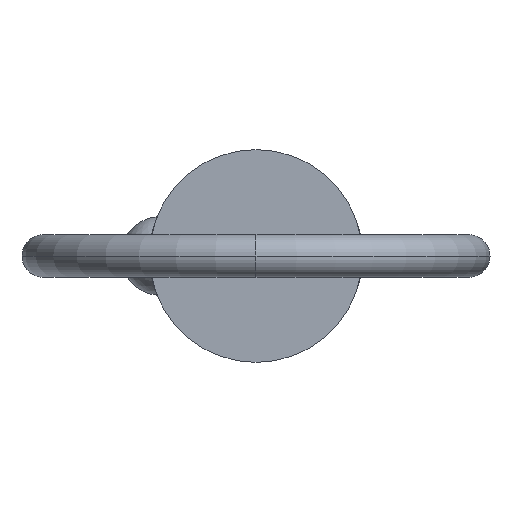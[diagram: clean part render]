
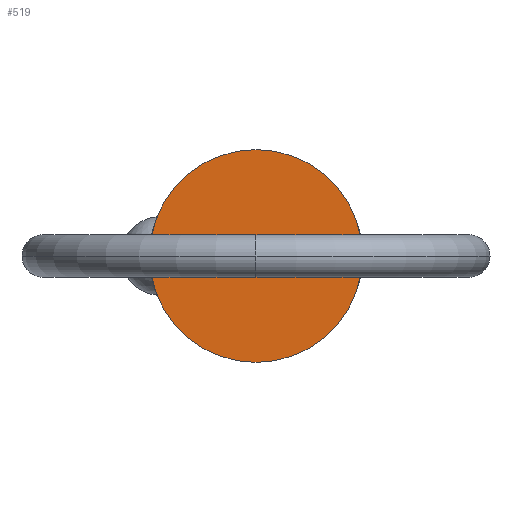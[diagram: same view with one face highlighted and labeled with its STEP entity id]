
A CAD part, left-side view. The second image highlights one B-rep face of the part: STEP entity #519.
In plain terms, the highlighted planar face has unit normal (-1, 0, 0).
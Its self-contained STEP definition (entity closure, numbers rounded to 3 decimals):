
#1 = CARTESIAN_POINT ( 'NONE',  ( 0., 0., 0. ) ) ;
#58 = EDGE_CURVE ( 'NONE', #241, #141, #305, .T. ) ;
#123 = AXIS2_PLACEMENT_3D ( 'NONE', #1, #153, #230 ) ;
#140 = PLANE ( 'NONE',  #123 ) ;
#141 = VERTEX_POINT ( 'NONE', #453 ) ;
#153 = DIRECTION ( 'NONE',  ( -1., 0., 0. ) ) ;
#191 = ORIENTED_EDGE ( 'NONE', *, *, #58, .F. ) ;
#198 = DIRECTION ( 'NONE',  ( 1., 0., 0. ) ) ;
#230 = DIRECTION ( 'NONE',  ( 0., 0., 1. ) ) ;
#231 = AXIS2_PLACEMENT_3D ( 'NONE', #388, #522, #381 ) ;
#241 = VERTEX_POINT ( 'NONE', #326 ) ;
#263 = ORIENTED_EDGE ( 'NONE', *, *, #719, .F. ) ;
#287 = AXIS2_PLACEMENT_3D ( 'NONE', #889, #198, #487 ) ;
#305 = CIRCLE ( 'NONE', #287, 7.94 ) ;
#326 = CARTESIAN_POINT ( 'NONE',  ( 0., 0., 7.94 ) ) ;
#381 = DIRECTION ( 'NONE',  ( 0., 0., -1. ) ) ;
#388 = CARTESIAN_POINT ( 'NONE',  ( 0., 0., 0. ) ) ;
#453 = CARTESIAN_POINT ( 'NONE',  ( 0., 0., -7.94 ) ) ;
#487 = DIRECTION ( 'NONE',  ( 0., 0., -1. ) ) ;
#519 = ADVANCED_FACE ( 'NONE', ( #770 ), #140, .T. ) ;
#522 = DIRECTION ( 'NONE',  ( 1., 0., 0. ) ) ;
#642 = EDGE_LOOP ( 'NONE', ( #263, #191 ) ) ;
#663 = CIRCLE ( 'NONE', #231, 7.94 ) ;
#719 = EDGE_CURVE ( 'NONE', #141, #241, #663, .T. ) ;
#770 = FACE_OUTER_BOUND ( 'NONE', #642, .T. ) ;
#889 = CARTESIAN_POINT ( 'NONE',  ( 0., 0., 0. ) ) ;
